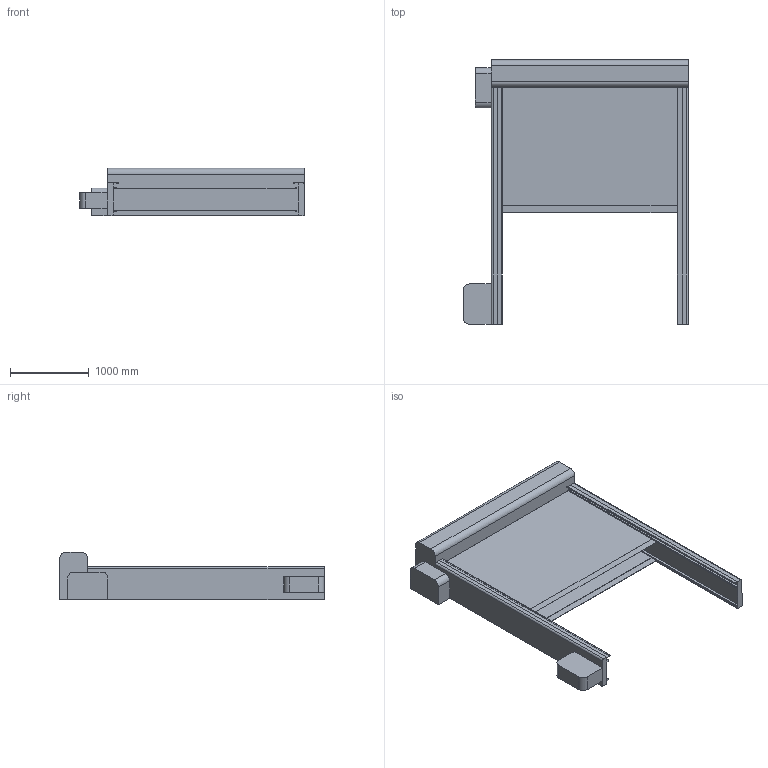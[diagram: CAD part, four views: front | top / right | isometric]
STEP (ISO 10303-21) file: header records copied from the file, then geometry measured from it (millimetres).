
FILE_DESCRIPTION (( 'STEP AP203' ), '1' );
FILE_NAME ('Dyn_Frigo 2.STEP', '2018-07-18T09:00:28', ( '' ), ( '' ), 'SwSTEP 2.0', 'SolidWorks 2018', '' );
FILE_SCHEMA (( 'CONFIG_CONTROL_DESIGN' ));
Length unit declared in the file: millimetre
Products named in the file (1): Dyn_Frigo 2
Bounding box: 2850 x 3350 x 600 mm (x, y, z)
Volume: 805600213.3 mm3; surface area: 28991386.1 mm2
Topology: 6 solids, 6 shells, 125 faces, 332 edges, 220 vertices
Faces by surface type: plane 97, cylinder 28
Entity records: 3917 total; most frequent: CARTESIAN_POINT 678, ORIENTED_EDGE 664, DIRECTION 640, EDGE_CURVE 332, VECTOR 276, LINE 276, VERTEX_POINT 220, AXIS2_PLACEMENT_3D 182
